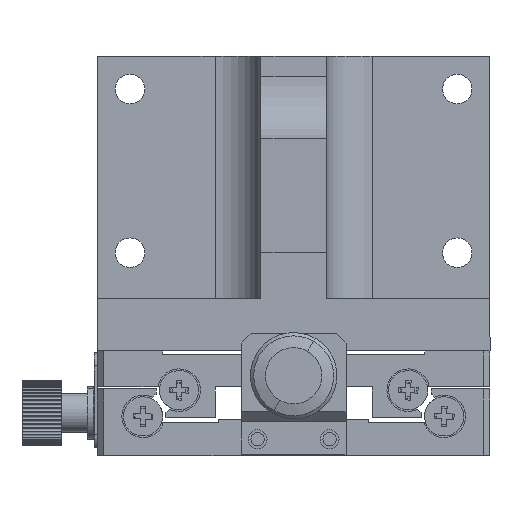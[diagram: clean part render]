
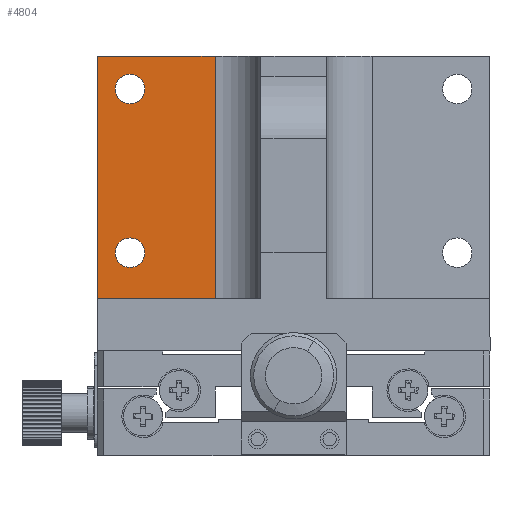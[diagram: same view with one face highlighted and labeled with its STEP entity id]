
A CAD part, left-side view. The second image highlights one B-rep face of the part: STEP entity #4804.
In plain terms, the highlighted planar face has unit normal (-1, 0, 0) as drawn and (0, 1, 0) by its records, which use the part's own axes.
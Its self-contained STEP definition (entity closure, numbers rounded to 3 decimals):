
#405 = ORIENTED_EDGE ( 'NONE', *, *, #14107, .F. ) ;
#675 = CARTESIAN_POINT ( 'NONE',  ( 25., 8., -5. ) ) ;
#1106 = ORIENTED_EDGE ( 'NONE', *, *, #7535, .T. ) ;
#1608 = DIRECTION ( 'NONE',  ( 0., 0., 1. ) ) ;
#2127 = CIRCLE ( 'NONE', #8957, 2.25 ) ;
#2363 = DIRECTION ( 'NONE',  ( 1., 0., 0. ) ) ;
#2673 = DIRECTION ( 'NONE',  ( 0., 0., -1. ) ) ;
#2756 = CARTESIAN_POINT ( 'NONE',  ( 25., 8., -5. ) ) ;
#3205 = VERTEX_POINT ( 'NONE', #5509 ) ;
#3497 = DIRECTION ( 'NONE',  ( 0., 0., -1. ) ) ;
#3529 = DIRECTION ( 'NONE',  ( 0., 0., -1. ) ) ;
#3659 = VECTOR ( 'NONE', #16656, 1000. ) ;
#3732 = CARTESIAN_POINT ( 'NONE',  ( 30., 8., 0. ) ) ;
#4705 = CIRCLE ( 'NONE', #4713, 2.25 ) ;
#4713 = AXIS2_PLACEMENT_3D ( 'NONE', #2756, #11783, #10334 ) ;
#4804 = ADVANCED_FACE ( 'NONE', ( #10505, #5252, #10750 ), #8812, .F. ) ;
#5120 = EDGE_CURVE ( 'NONE', #8129, #7360, #12154, .T. ) ;
#5225 = DIRECTION ( 'NONE',  ( 0., -1., 0. ) ) ;
#5252 = FACE_BOUND ( 'NONE', #7555, .T. ) ;
#5335 = ORIENTED_EDGE ( 'NONE', *, *, #5120, .T. ) ;
#5509 = CARTESIAN_POINT ( 'NONE',  ( 12., 8., -37. ) ) ;
#5952 = ORIENTED_EDGE ( 'NONE', *, *, #6140, .T. ) ;
#6140 = EDGE_CURVE ( 'NONE', #7064, #9068, #17586, .T. ) ;
#6234 = CARTESIAN_POINT ( 'NONE',  ( 5., 8., -37. ) ) ;
#6393 = EDGE_CURVE ( 'NONE', #7919, #19278, #11891, .T. ) ;
#6413 = EDGE_LOOP ( 'NONE', ( #5952, #15611 ) ) ;
#7064 = VERTEX_POINT ( 'NONE', #12800 ) ;
#7115 = CARTESIAN_POINT ( 'NONE',  ( 25., 8., -2.75 ) ) ;
#7247 = LINE ( 'NONE', #6234, #3659 ) ;
#7360 = VERTEX_POINT ( 'NONE', #17891 ) ;
#7535 = EDGE_CURVE ( 'NONE', #3205, #11027, #8754, .T. ) ;
#7555 = EDGE_LOOP ( 'NONE', ( #14628, #16654 ) ) ;
#7837 = EDGE_LOOP ( 'NONE', ( #405, #1106, #16043, #5335 ) ) ;
#7866 = CARTESIAN_POINT ( 'NONE',  ( 30., 8., 0. ) ) ;
#7919 = VERTEX_POINT ( 'NONE', #10105 ) ;
#8022 = CARTESIAN_POINT ( 'NONE',  ( 25., 8., -32.25 ) ) ;
#8129 = VERTEX_POINT ( 'NONE', #7866 ) ;
#8754 = LINE ( 'NONE', #13848, #13712 ) ;
#8812 = PLANE ( 'NONE',  #13128 ) ;
#8957 = AXIS2_PLACEMENT_3D ( 'NONE', #17246, #5225, #3497 ) ;
#9068 = VERTEX_POINT ( 'NONE', #7115 ) ;
#9835 = DIRECTION ( 'NONE',  ( 0., 0., -1. ) ) ;
#10105 = CARTESIAN_POINT ( 'NONE',  ( 25., 8., -27.75 ) ) ;
#10334 = DIRECTION ( 'NONE',  ( 0., 0., -1. ) ) ;
#10414 = DIRECTION ( 'NONE',  ( 0., -1., 0. ) ) ;
#10505 = FACE_BOUND ( 'NONE', #6413, .T. ) ;
#10621 = CARTESIAN_POINT ( 'NONE',  ( 25., 8., -30. ) ) ;
#10750 = FACE_OUTER_BOUND ( 'NONE', #7837, .T. ) ;
#11027 = VERTEX_POINT ( 'NONE', #19003 ) ;
#11031 = EDGE_CURVE ( 'NONE', #11027, #8129, #13978, .T. ) ;
#11279 = AXIS2_PLACEMENT_3D ( 'NONE', #10621, #19385, #2673 ) ;
#11509 = CARTESIAN_POINT ( 'NONE',  ( 5., 8., 0. ) ) ;
#11684 = VECTOR ( 'NONE', #3529, 1000. ) ;
#11783 = DIRECTION ( 'NONE',  ( 0., -1., 0. ) ) ;
#11862 = DIRECTION ( 'NONE',  ( 0., 0., -1. ) ) ;
#11891 = CIRCLE ( 'NONE', #11279, 2.25 ) ;
#12154 = LINE ( 'NONE', #3732, #11684 ) ;
#12800 = CARTESIAN_POINT ( 'NONE',  ( 25., 8., -7.25 ) ) ;
#13128 = AXIS2_PLACEMENT_3D ( 'NONE', #16406, #10414, #11862 ) ;
#13657 = AXIS2_PLACEMENT_3D ( 'NONE', #675, #18860, #9835 ) ;
#13712 = VECTOR ( 'NONE', #1608, 1000. ) ;
#13848 = CARTESIAN_POINT ( 'NONE',  ( 12., 8., 0. ) ) ;
#13978 = LINE ( 'NONE', #11509, #15877 ) ;
#14107 = EDGE_CURVE ( 'NONE', #3205, #7360, #7247, .T. ) ;
#14628 = ORIENTED_EDGE ( 'NONE', *, *, #17746, .T. ) ;
#15611 = ORIENTED_EDGE ( 'NONE', *, *, #18463, .T. ) ;
#15877 = VECTOR ( 'NONE', #2363, 1000. ) ;
#16043 = ORIENTED_EDGE ( 'NONE', *, *, #11031, .T. ) ;
#16406 = CARTESIAN_POINT ( 'NONE',  ( 5., 8., 0. ) ) ;
#16654 = ORIENTED_EDGE ( 'NONE', *, *, #6393, .T. ) ;
#16656 = DIRECTION ( 'NONE',  ( 1., 0., 0. ) ) ;
#17246 = CARTESIAN_POINT ( 'NONE',  ( 25., 8., -30. ) ) ;
#17586 = CIRCLE ( 'NONE', #13657, 2.25 ) ;
#17746 = EDGE_CURVE ( 'NONE', #19278, #7919, #2127, .T. ) ;
#17891 = CARTESIAN_POINT ( 'NONE',  ( 30., 8., -37. ) ) ;
#18463 = EDGE_CURVE ( 'NONE', #9068, #7064, #4705, .T. ) ;
#18860 = DIRECTION ( 'NONE',  ( 0., -1., 0. ) ) ;
#19003 = CARTESIAN_POINT ( 'NONE',  ( 12., 8., 0. ) ) ;
#19278 = VERTEX_POINT ( 'NONE', #8022 ) ;
#19385 = DIRECTION ( 'NONE',  ( 0., -1., 0. ) ) ;
